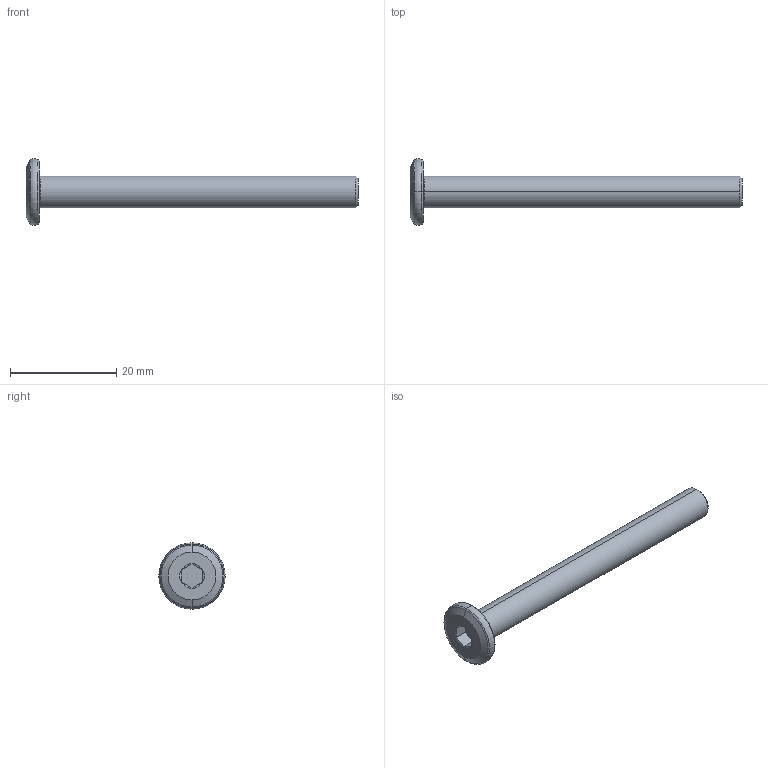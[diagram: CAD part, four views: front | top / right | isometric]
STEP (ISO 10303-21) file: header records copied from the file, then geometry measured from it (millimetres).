
FILE_DESCRIPTION (( 'STEP AP203' ), '1' );
FILE_NAME ('LGD-304D-M6x60.STEP', '2026-08-13T08:08:31', ( '' ), ( '' ), 'SwSTEP 2.0', 'SolidWorks 2020', '' );
FILE_SCHEMA (( 'CONFIG_CONTROL_DESIGN' ));
Length unit declared in the file: millimetre
Products named in the file (1): LGD-304D-M6x60
Bounding box: 62.5 x 12.49 x 12.49 mm (x, y, z)
Volume: 1934.4 mm3; surface area: 1458.5 mm2
Topology: 1 solids, 1 shells, 30 faces, 56 edges, 30 vertices
Faces by surface type: cone 10, plane 10, torus 8, cylinder 2
Entity records: 835 total; most frequent: CARTESIAN_POINT 151, DIRECTION 144, ORIENTED_EDGE 112, AXIS2_PLACEMENT_3D 63, EDGE_CURVE 56, CIRCLE 32, EDGE_LOOP 32, ADVANCED_FACE 30
